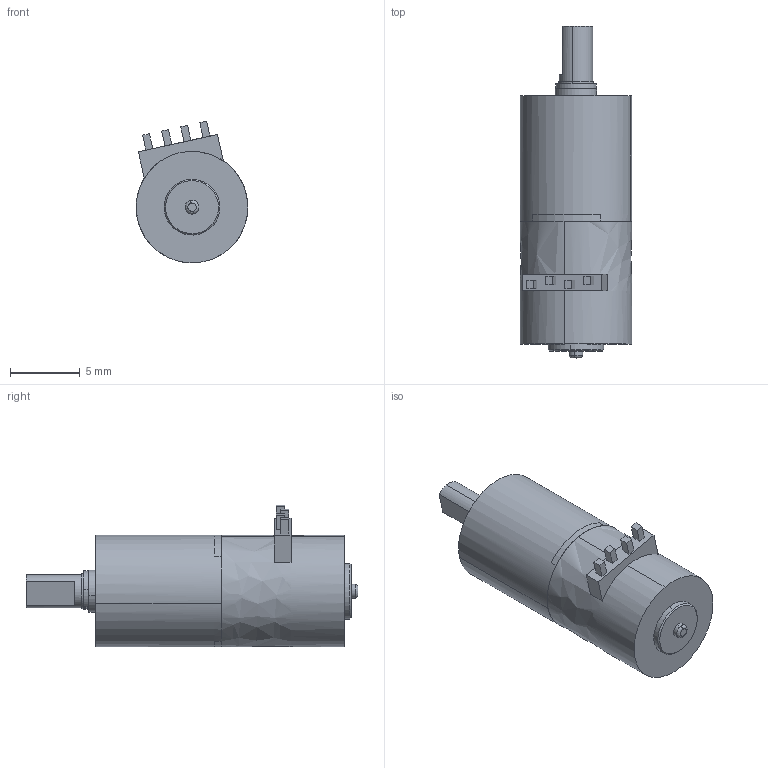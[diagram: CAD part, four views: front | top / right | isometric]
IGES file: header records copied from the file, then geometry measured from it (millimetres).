
Start section: SolidWorks IGES file using analytic representation for surfaces
Bounding box: 8 x 23.8 x 10.17 mm (x, y, z)
Volume: 913.4 mm3; surface area: 1046.2 mm2
Topology: 3 solids, 3 shells, 122 faces, 594 edges, 789 vertices
Faces by surface type: plane 64, revolution 58
